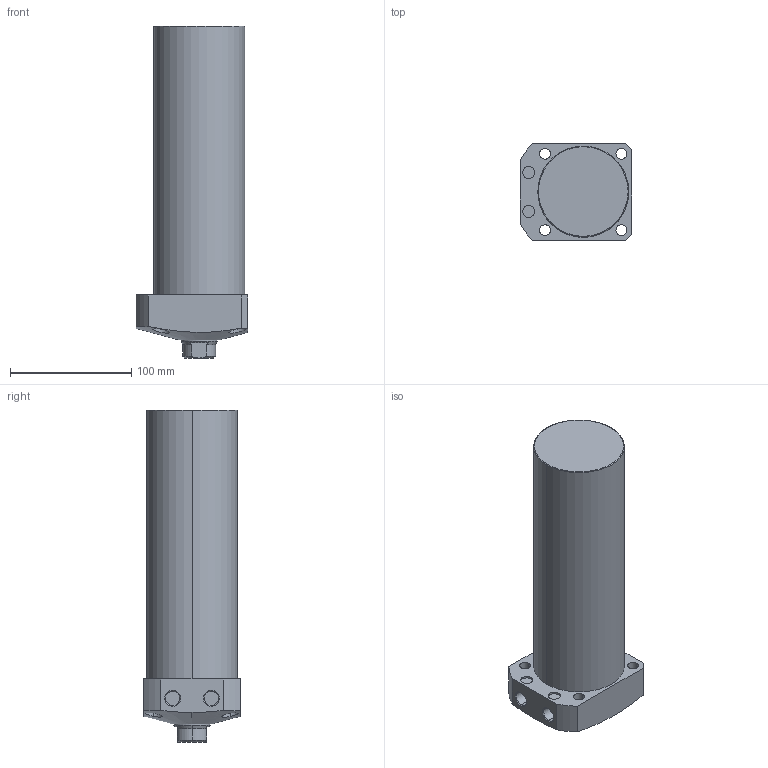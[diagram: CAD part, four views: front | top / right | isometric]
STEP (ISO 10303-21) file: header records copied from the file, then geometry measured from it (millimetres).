
FILE_DESCRIPTION (( 'STEP AP203' ), '1' );
FILE_NAME ('CLL-075CA-185.STEP', '2019-12-23T09:02:49', ( '' ), ( '' ), 'SwSTEP 2.0', 'SolidWorks 2015', '' );
FILE_SCHEMA (( 'CONFIG_CONTROL_DESIGN' ));
Length unit declared in the file: millimetre
Products named in the file (1): CLL-075CA-185
Bounding box: 92 x 80 x 274 mm (x, y, z)
Volume: 1199824 mm3; surface area: 84641.9 mm2
Topology: 1 solids, 1 shells, 74 faces, 171 edges, 108 vertices
Faces by surface type: cylinder 35, plane 22, cone 15, torus 2
Entity records: 2610 total; most frequent: CARTESIAN_POINT 815, DIRECTION 376, ORIENTED_EDGE 338, EDGE_CURVE 169, AXIS2_PLACEMENT_3D 156, VERTEX_POINT 108, EDGE_LOOP 93, CIRCLE 81
